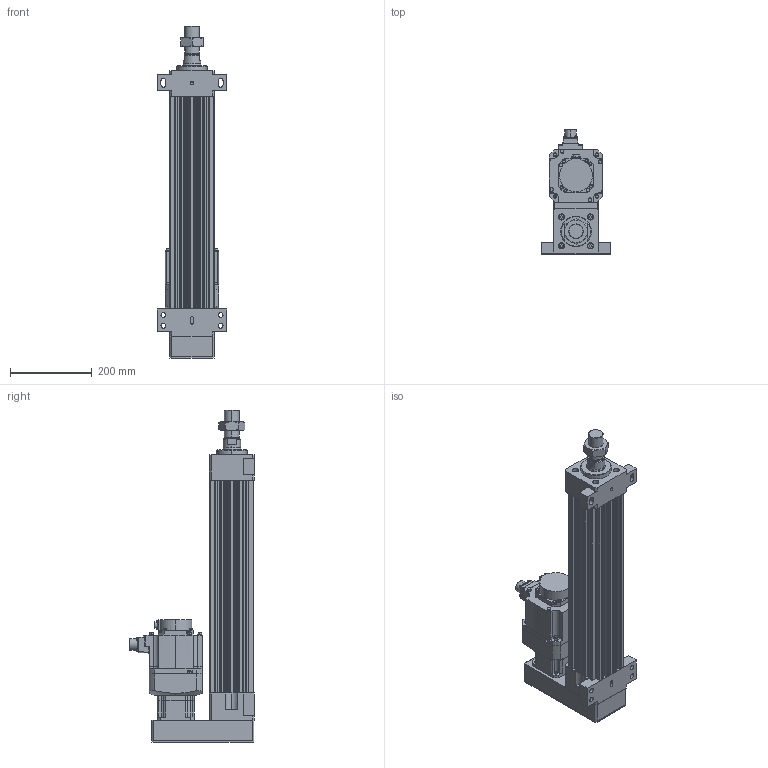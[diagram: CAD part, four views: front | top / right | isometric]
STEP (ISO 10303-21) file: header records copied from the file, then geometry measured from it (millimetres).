
FILE_DESCRIPTION (( 'STEP AP203' ), '1' );
FILE_NAME ('HES110NS(HS)-P350-W010G00-M-FFB.STEP', '2023-01-26T08:58:23', ( 'tms' ), ( '' ), 'SwSTEP 2.0', 'SolidWorks 2013', '' );
FILE_SCHEMA (( 'CONFIG_CONTROL_DESIGN' ));
Length unit declared in the file: millimetre
Products named in the file (8): AB090-003[HG-SR102B]; HES110 ROD M ST350; HES110-P350-G090-FFB; M36X1.5P; P0401301004; AB0901; HG-SR102; HES110NS(HS)-P350-W010G00-M-FFB
Assembly tree (7 placements, depth 3):
  HES110NS(HS)-P350-W010G00-M-FFB
    HES110-P350-G090-FFB
    HES110 ROD M ST350
    AB090-003[HG-SR102B]
      AB0901
      P0401301004
    HG-SR102
    M36X1.5P
Bounding box: 170 x 304.99 x 813 mm (x, y, z)
Volume: 7784109.1 mm3; surface area: 982179.4 mm2
Topology: 4 solids, 11 shells, 1083 faces, 2775 edges, 1806 vertices
Faces by surface type: cylinder 501, plane 500, cone 70, bspline 8, torus 4
Entity records: 34904 total; most frequent: CARTESIAN_POINT 6854, DIRECTION 5982, ORIENTED_EDGE 5502, EDGE_CURVE 2761, AXIS2_PLACEMENT_3D 2205, VERTEX_POINT 1806, VECTOR 1572, LINE 1572
